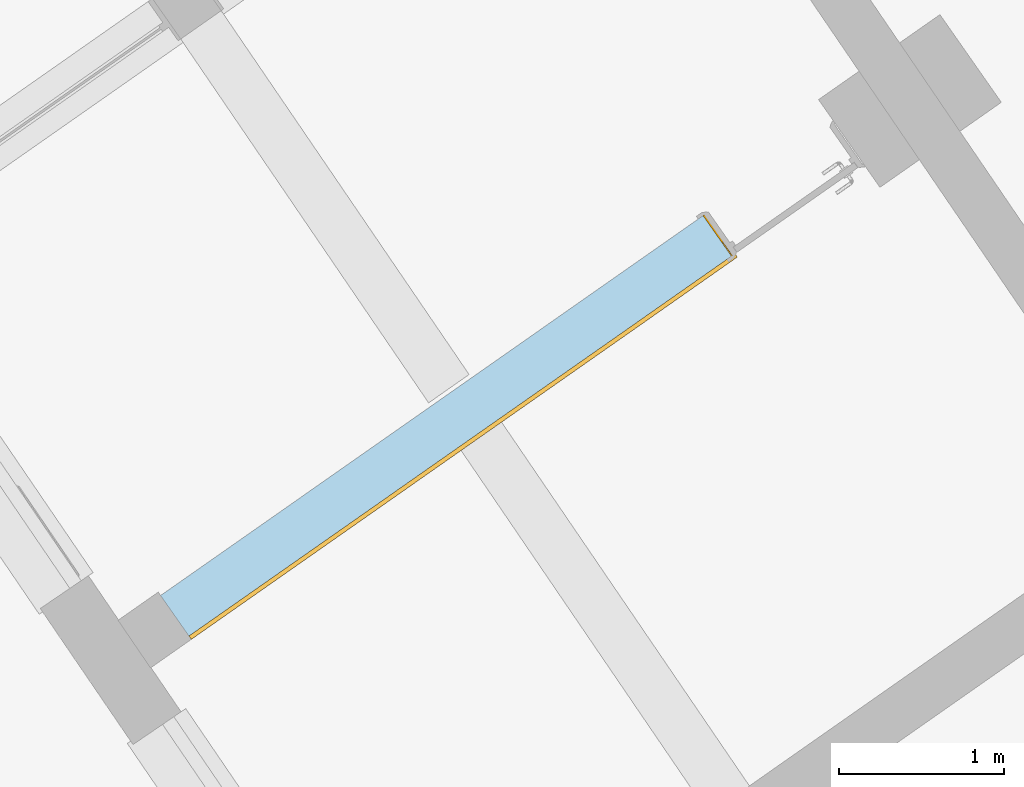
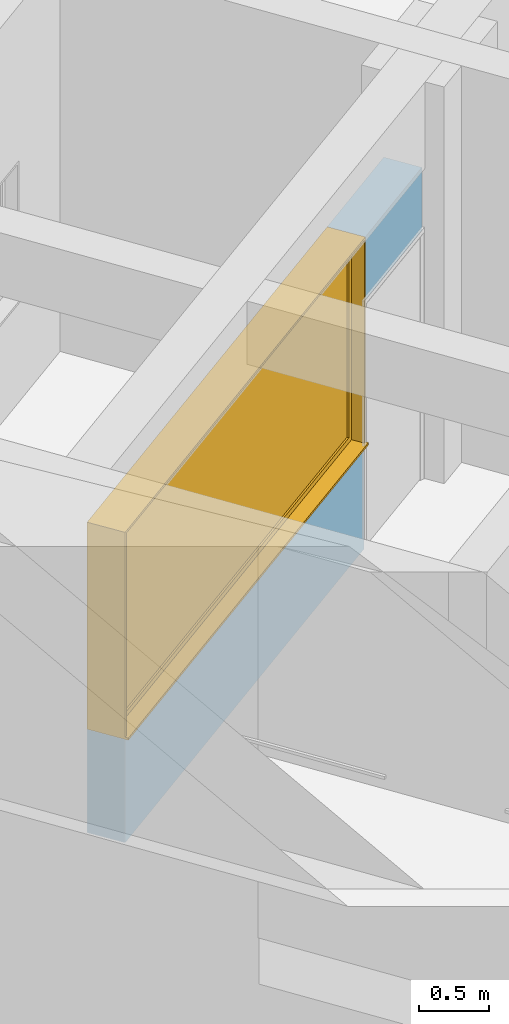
# One storey, part 59 of 112: 1 window, 2 openings, plus 1 element that does not belong to this part.
"""IFC2X3 building model written with IfcOpenShell, lengths in millimetres."""

from ifc_helpers import new_model, entity, si_unit, converted_unit, derived_unit, direction, frame, frame_2d, origin, place, context, subcontext, project, spatial, polyline, rectangle, outline, extrude, source, transform, mapped, material, material_list, layer, layer_set, layer_usage, type_object, type_shapes, element, fill, save


model = new_model("IFC2X3")

# Units and contexts
model_context = context("Model", 3, precision=0.01, world=origin(), true_north=direction((6.123031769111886e-17, 1.0)))
body_context = subcontext(model_context, "Body", "Model", "MODEL_VIEW")
ifc_project = project(units=[si_unit("LENGTHUNIT", "METRE", prefix="MILLI"), si_unit("AREAUNIT", "SQUARE_METRE"), si_unit("VOLUMEUNIT", "CUBIC_METRE"), converted_unit("PLANEANGLEUNIT", "DEGREE", entity("IfcRatioMeasure", 0.017453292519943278), si_unit("PLANEANGLEUNIT", "RADIAN"), dimensions=[0, 0, 0, 0, 0, 0, 0]), si_unit("MASSUNIT", "GRAM", prefix="KILO"), derived_unit("MASSDENSITYUNIT", [(si_unit("MASSUNIT", "GRAM", prefix="KILO"), 1), (si_unit("LENGTHUNIT", "METRE"), -3)]), derived_unit("MOMENTOFINERTIAUNIT", [(si_unit("LENGTHUNIT", "METRE"), 4)]), si_unit("TIMEUNIT", "SECOND"), si_unit("FREQUENCYUNIT", "HERTZ"), si_unit("THERMODYNAMICTEMPERATUREUNIT", "DEGREE_CELSIUS"), derived_unit("THERMALTRANSMITTANCEUNIT", [(si_unit("MASSUNIT", "GRAM", prefix="KILO"), 1), (si_unit("THERMODYNAMICTEMPERATUREUNIT", "KELVIN"), -1), (si_unit("TIMEUNIT", "SECOND"), -3)]), derived_unit("THERMALCONDUCTANCEUNIT", [(si_unit("MASSUNIT", "GRAM", prefix="KILO"), 1), (si_unit("LENGTHUNIT", "METRE"), 1), (si_unit("THERMODYNAMICTEMPERATUREUNIT", "KELVIN"), -1), (si_unit("TIMEUNIT", "SECOND"), -3)]), derived_unit("VOLUMETRICFLOWRATEUNIT", [(si_unit("LENGTHUNIT", "METRE"), 3), (si_unit("TIMEUNIT", "SECOND"), -1)]), derived_unit("MASSFLOWRATEUNIT", [(si_unit("MASSUNIT", "GRAM", prefix="KILO"), 1), (si_unit("TIMEUNIT", "SECOND"), -1)]), derived_unit("ROTATIONALFREQUENCYUNIT", [(si_unit("TIMEUNIT", "SECOND"), -1)]), si_unit("ELECTRICCURRENTUNIT", "AMPERE"), si_unit("ELECTRICVOLTAGEUNIT", "VOLT"), si_unit("POWERUNIT", "WATT"), converted_unit("FORCEUNIT", "KIP", entity("IfcRatioMeasure", 2.088543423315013e-05), si_unit("FORCEUNIT", "NEWTON"), dimensions=[1, 1, -2, 0, 0, 0, 0]), si_unit("ILLUMINANCEUNIT", "LUX"), si_unit("LUMINOUSFLUXUNIT", "LUMEN"), si_unit("LUMINOUSINTENSITYUNIT", "CANDELA"), derived_unit("USERDEFINED", [(si_unit("MASSUNIT", "GRAM", prefix="KILO"), -1), (si_unit("LENGTHUNIT", "METRE"), -2), (si_unit("TIMEUNIT", "SECOND"), 3), (si_unit("LUMINOUSFLUXUNIT", "LUMEN"), 1)]), derived_unit("USERDEFINED", [(si_unit("MASSUNIT", "GRAM", prefix="KILO"), 1), (si_unit("LENGTHUNIT", "METRE"), 3), (si_unit("TIMEUNIT", "SECOND"), -3), (si_unit("ELECTRICCURRENTUNIT", "AMPERE"), -2)]), derived_unit("USERDEFINED", [(si_unit("LENGTHUNIT", "METRE"), 2), (si_unit("TIMEUNIT", "SECOND"), -2)]), derived_unit("SOUNDPOWERUNIT", [(si_unit("MASSUNIT", "GRAM", prefix="KILO"), 1), (si_unit("LENGTHUNIT", "METRE"), 2), (si_unit("TIMEUNIT", "SECOND"), -3)]), derived_unit("SOUNDPRESSUREUNIT", [(si_unit("MASSUNIT", "GRAM", prefix="KILO"), 1), (si_unit("LENGTHUNIT", "METRE"), -1), (si_unit("TIMEUNIT", "SECOND"), -2)]), derived_unit("LINEARVELOCITYUNIT", [(si_unit("LENGTHUNIT", "METRE"), 1), (si_unit("TIMEUNIT", "SECOND"), -1)]), si_unit("PRESSUREUNIT", "PASCAL"), derived_unit("USERDEFINED", [(si_unit("LENGTHUNIT", "METRE"), -2), (si_unit("MASSUNIT", "GRAM", prefix="KILO"), 1), (si_unit("TIMEUNIT", "SECOND"), -2)]), derived_unit("LINEARFORCEUNIT", [(si_unit("MASSUNIT", "GRAM", prefix="KILO"), 1), (si_unit("LENGTHUNIT", "METRE"), 1), (si_unit("TIMEUNIT", "SECOND"), -2), (si_unit("LENGTHUNIT", "METRE"), -1)]), derived_unit("PLANARFORCEUNIT", [(si_unit("MASSUNIT", "GRAM", prefix="KILO"), 1), (si_unit("LENGTHUNIT", "METRE"), 1), (si_unit("TIMEUNIT", "SECOND"), -2), (si_unit("LENGTHUNIT", "METRE"), -2)]), derived_unit("SPECIFICHEATCAPACITYUNIT", [(si_unit("LENGTHUNIT", "METRE"), 2), (si_unit("TIMEUNIT", "SECOND"), -2), (si_unit("THERMODYNAMICTEMPERATUREUNIT", "KELVIN"), -1)]), derived_unit("VAPORPERMEABILITYUNIT", [(si_unit("TIMEUNIT", "SECOND"), 1), (si_unit("LENGTHUNIT", "METRE"), -1)]), derived_unit("DYNAMICVISCOSITYUNIT", [(si_unit("MASSUNIT", "GRAM", prefix="KILO"), 1), (si_unit("LENGTHUNIT", "METRE"), -1), (si_unit("TIMEUNIT", "SECOND"), -1)]), derived_unit("THERMALEXPANSIONCOEFFICIENTUNIT", [(si_unit("THERMODYNAMICTEMPERATUREUNIT", "KELVIN"), -1)])], contexts=[model_context])

# Site, building, storey
site_placement = place(None, frame((0.0, 0.0, 0.0), z_axis=(0.0, 0.0, 1.0), x_axis=(0.8191520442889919, 0.5735764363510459, 0.0)))
site = spatial("IfcSite", under=ifc_project, at=site_placement, Name="Default", CompositionType="ELEMENT")
building_placement = place(site_placement, origin())
building = spatial("IfcBuilding", under=site, at=building_placement, CompositionType="ELEMENT")
storey_placement = place(building_placement, frame((0.0, 0.0, -3600.0)))
storey = spatial("IfcBuildingStorey", under=building, at=storey_placement, Name="0.UG -3.60", CompositionType="ELEMENT", Elevation=-3600.0000000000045)

# Wall, openings, window
ifc_material_1 = material(Name="Analytical Wall Surface_CJC")
ifc_layer = layer(ifc_material_1, 300.0)
ifc_layer_set = layer_set([ifc_layer], Name="Basic Wall:Wand_Innen_30")
ifc_layer_usage = layer_usage(ifc_layer_set, "AXIS2", "POSITIVE", -150.0)
wall_type = type_object("IfcWallType", Name="Basic Wall:Wand_Innen_30", PredefinedType="STANDARD", material=ifc_layer_set)
wall_placement = place(storey_placement, frame((-222295.46807251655, 127696.3589143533, 0.0)))
wall = element("IfcWallStandardCase", 1, at=wall_placement, inside=storey, type_object=wall_type, material=ifc_layer_usage, Name="Basic Wall:Wand_Innen_30", ObjectType="Basic Wall:Wand_Innen_30", context=body_context, shape_type="SweptSolid", body=[
    extrude(rectangle(XDim=5003.803250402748, YDim=300.00000000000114, at=frame_2d((2501.901625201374, -1.5489831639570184e-12), x_axis=(-1.0, 0.0))), origin(), (0.0, 0.0, 1.0), 2700.0),
])
opening_1_placement = place(wall_placement, frame((5003.803250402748, 150.0, 0.0)))
element("IfcOpeningElement", 2, at=opening_1_placement, cuts=wall, Name="Doors_IntSgl:90x210:1", ObjectType="Opening", context=body_context, shape_type="SweptSolid", body=[
    extrude(rectangle(XDim=2150.000000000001, YDim=979.9999999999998, at=frame_2d((1075.0000000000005, 489.9999999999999), x_axis=(1.0, 0.0))), frame((0.0, 0.0, 0.0), z_axis=(0.0, -1.0, 0.0), x_axis=(0.0, 0.0, 1.0)), (0.0, 0.0, 1.0), 300.0),
])
opening_2_placement = place(wall_placement, frame((4050.0, 150.0, 900.0)))
opening_2 = element("IfcOpeningElement", 3, at=opening_2_placement, cuts=wall, Name="M_Instance-Window-Fixed:508x270:1", ObjectType="Opening", context=body_context, shape_type="SweptSolid", body=[
    extrude(rectangle(XDim=1799.9999999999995, YDim=4049.9999999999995, at=frame_2d((899.9999999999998, 2024.9999999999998), x_axis=(-1.0, 0.0))), frame((0.0, 0.0, 0.0), z_axis=(0.0, -1.0, 0.0), x_axis=(0.0, 0.0, 1.0)), (0.0, 0.0, 1.0), 300.0),
])
ifc_material_2 = material(Name="Sash")
ifc_material_3 = material(Name="Glass")
ifc_material_4 = material(Name="<Unnamed>")
ifc_material_list = material_list([ifc_material_2, ifc_material_3, ifc_material_4])
window_style = type_object("IfcWindowStyle", Name="M_Instance-Window-Fixed:508x270", ConstructionType="NOTDEFINED", OperationType="NOTDEFINED", ParameterTakesPrecedence=False, Sizeable=False, material=ifc_material_list)
shared_shape = source(origin(), body_context, "Body", "SweptSolid", [
    extrude(rectangle(XDim=25.400000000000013, YDim=4050.000000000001, at=frame_2d((1.687538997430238e-14, 0.0), x_axis=(1.0, 0.0))), frame((2025.0, 312.70000000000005, 0.0), z_axis=(0.0, 0.0, 1.0), x_axis=(0.0, -1.0, 0.0)), (0.0, 0.0, 1.0), 19.049999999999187),
    extrude(rectangle(XDim=12.699999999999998, YDim=3922.9999999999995, at=frame_2d((-4.440892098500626e-15, 0.0), x_axis=(1.0, 0.0))), frame((2025.0, 177.77500000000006, 63.49999999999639), z_axis=(0.0, 0.0, 1.0), x_axis=(0.0, 1.0, 0.0)), (0.0, 0.0, 1.0), 1673.0000000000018),
    extrude(outline(polyline([(-2005.9499999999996, -880.9500000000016), (2005.9499999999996, -880.9500000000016), (2005.9499999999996, 880.9500000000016), (-2005.9499999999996, 880.9500000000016), (-2005.9499999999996, -880.9500000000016)]), holes=[polyline([(-1961.4999999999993, -836.5000000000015), (-1961.4999999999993, 836.5000000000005), (1961.5, 836.5000000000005), (1961.5, -836.5000000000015), (-1961.4999999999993, -836.5000000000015)])]), frame((2025.0, 155.55000000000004, 900.0), z_axis=(0.0, 1.0, 0.0), x_axis=(1.0, 0.0, 0.0)), (0.0, 0.0, 1.0), 44.449999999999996),
    extrude(outline(polyline([(-2025.0, -900.0), (2025.0, -900.0), (2025.0, 900.0), (-2025.0, 900.0), (-2025.0, -900.0)]), holes=[polyline([(-1993.25, -868.2499999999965), (-1993.25, 868.2500000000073), (1993.2499999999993, 868.2500000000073), (1993.2499999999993, -868.2499999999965), (-1993.25, -868.2499999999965)])]), frame((2025.0, 0.0, 900.0), z_axis=(0.0, 1.0, 0.0), x_axis=(1.0, 0.0, 0.0)), (0.0, 0.0, 1.0), 155.55000000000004),
    extrude(outline(polyline([(-900.0, -2025.0), (900.0, -2025.0), (900.0, 2025.0), (-900.0, 2025.0), (-900.0, -2025.0)]), holes=[polyline([(-880.9499999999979, -2005.9499999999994), (-880.9499999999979, 2005.9500000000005), (880.9500000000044, 2005.9500000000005), (880.9500000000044, -2005.9499999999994), (-880.9499999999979, -2005.9499999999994)])]), frame((2025.0, 155.55000000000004, 900.0), z_axis=(0.0, 1.0, 0.0), x_axis=(0.0, 0.0, -1.0)), (0.0, 0.0, 1.0), 144.45),
])
type_shapes(window_style, [shared_shape])
window_placement = place(opening_2_placement, frame((0.0, 0.0, 0.0), z_axis=(0.0, 0.0, 1.0), x_axis=(-1.0, 0.0, 0.0)))
window = element("IfcWindow", 4, at=window_placement, inside=storey, type_object=window_style, material=ifc_material_list, Name="M_Instance-Window-Fixed:508x270", ObjectType="M_Instance-Window-Fixed:508x270", OverallHeight=1799.9999999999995, OverallWidth=4050.000000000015, context=body_context, shape_type="MappedRepresentation", body=[
    mapped(shared_shape, transform((0.0, 0.0, 0.0), scale=1.0)),
])
fill(opening_2, window)

save(model, "model.ifc")
